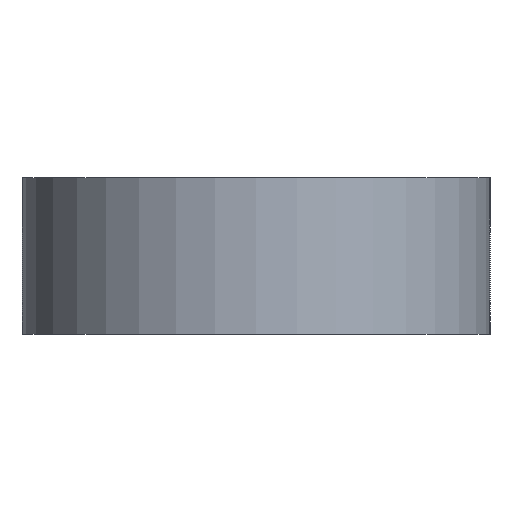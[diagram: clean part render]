
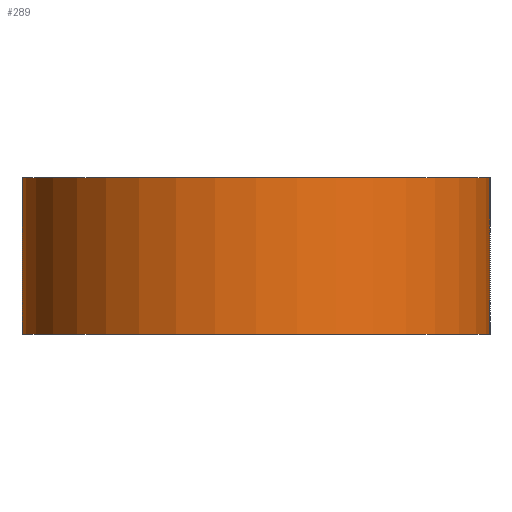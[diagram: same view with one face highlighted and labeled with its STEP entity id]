
A CAD part, left-side view. The second image highlights one B-rep face of the part: STEP entity #289.
In plain terms, the highlighted cylindrical face has radius 3.81 mm (diameter 7.62 mm), a partial arc.
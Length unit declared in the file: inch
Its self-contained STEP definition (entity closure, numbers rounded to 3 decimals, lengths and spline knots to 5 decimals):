
#4 = ORIENTED_EDGE ( 'NONE', *, *, #190, .T. ) ;
#28 = CIRCLE ( 'NONE', #47, 0.15 ) ;
#39 = EDGE_LOOP ( 'NONE', ( #4, #97, #140, #114 ) ) ;
#40 = DIRECTION ( 'NONE',  ( 0., 0., -1. ) ) ;
#47 = AXIS2_PLACEMENT_3D ( 'NONE', #80, #153, #204 ) ;
#59 = VERTEX_POINT ( 'NONE', #96 ) ;
#70 = EDGE_CURVE ( 'NONE', #273, #272, #131, .T. ) ;
#80 = CARTESIAN_POINT ( 'NONE',  ( -1.875, 0.925, 0.1 ) ) ;
#83 = AXIS2_PLACEMENT_3D ( 'NONE', #274, #124, #306 ) ;
#96 = CARTESIAN_POINT ( 'NONE',  ( -1.875, 0.775, 0. ) ) ;
#97 = ORIENTED_EDGE ( 'NONE', *, *, #301, .F. ) ;
#102 = CIRCLE ( 'NONE', #83, 0.15 ) ;
#109 = CARTESIAN_POINT ( 'NONE',  ( -1.875, 1.075, 0. ) ) ;
#111 = CARTESIAN_POINT ( 'NONE',  ( -1.875, 0.775, 0.1 ) ) ;
#114 = ORIENTED_EDGE ( 'NONE', *, *, #70, .T. ) ;
#124 = DIRECTION ( 'NONE',  ( 0., 0., 1. ) ) ;
#125 = CARTESIAN_POINT ( 'NONE',  ( -1.875, 0.775, 0.1 ) ) ;
#131 = LINE ( 'NONE', #189, #142 ) ;
#140 = ORIENTED_EDGE ( 'NONE', *, *, #157, .F. ) ;
#142 = VECTOR ( 'NONE', #265, 39.37008 ) ;
#153 = DIRECTION ( 'NONE',  ( 0., 0., 1. ) ) ;
#157 = EDGE_CURVE ( 'NONE', #273, #237, #28, .T. ) ;
#166 = LINE ( 'NONE', #125, #267 ) ;
#175 = CARTESIAN_POINT ( 'NONE',  ( -1.875, 0.925, 0.1 ) ) ;
#189 = CARTESIAN_POINT ( 'NONE',  ( -1.875, 1.075, 0.1 ) ) ;
#190 = EDGE_CURVE ( 'NONE', #272, #59, #102, .T. ) ;
#202 = AXIS2_PLACEMENT_3D ( 'NONE', #175, #275, #226 ) ;
#203 = FACE_OUTER_BOUND ( 'NONE', #39, .T. ) ;
#204 = DIRECTION ( 'NONE',  ( 1., 0., 0. ) ) ;
#212 = CYLINDRICAL_SURFACE ( 'NONE', #202, 0.15 ) ;
#226 = DIRECTION ( 'NONE',  ( -1., 0., 0. ) ) ;
#237 = VERTEX_POINT ( 'NONE', #111 ) ;
#255 = CARTESIAN_POINT ( 'NONE',  ( -1.875, 1.075, 0.1 ) ) ;
#265 = DIRECTION ( 'NONE',  ( 0., 0., -1. ) ) ;
#267 = VECTOR ( 'NONE', #40, 39.37008 ) ;
#272 = VERTEX_POINT ( 'NONE', #109 ) ;
#273 = VERTEX_POINT ( 'NONE', #255 ) ;
#274 = CARTESIAN_POINT ( 'NONE',  ( -1.875, 0.925, 0. ) ) ;
#275 = DIRECTION ( 'NONE',  ( 0., 0., -1. ) ) ;
#289 = ADVANCED_FACE ( 'NONE', ( #203 ), #212, .T. ) ;
#301 = EDGE_CURVE ( 'NONE', #237, #59, #166, .T. ) ;
#306 = DIRECTION ( 'NONE',  ( 1., 0., 0. ) ) ;
